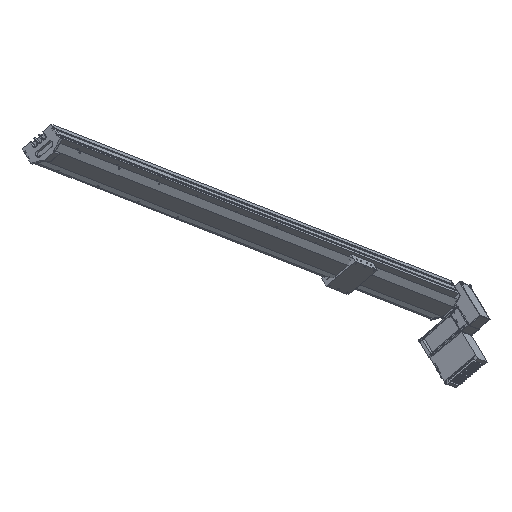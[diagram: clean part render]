
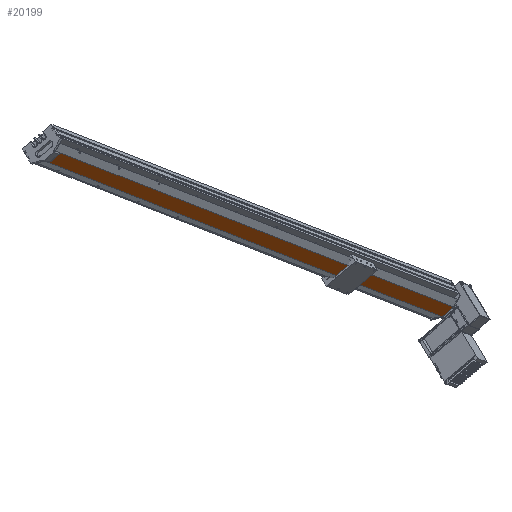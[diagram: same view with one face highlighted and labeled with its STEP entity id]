
A CAD part, top view. The second image highlights one B-rep face of the part: STEP entity #20199.
In plain terms, the highlighted planar face has unit normal (0.464, -0.763, 0.45) as drawn and (0, 1, 0) by its records, which use the part's own axes.
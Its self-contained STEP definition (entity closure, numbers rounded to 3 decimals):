
#12195 = CARTESIAN_POINT ( 'NONE',  ( 20., 61.75, 0. ) ) ;
#12216 = CARTESIAN_POINT ( 'NONE',  ( 20., 61.75, 5.114 ) ) ;
#12584 = DIRECTION ( 'NONE',  ( 0., 0., -1. ) ) ;
#12585 = VECTOR ( 'NONE', #12584, 1000. ) ;
#12586 = CARTESIAN_POINT ( 'NONE',  ( 20., 61.75, 2000. ) ) ;
#12613 = LINE ( 'NONE', #12586, #12585 ) ;
#15366 = CARTESIAN_POINT ( 'NONE',  ( 20., 61.75, 2000. ) ) ;
#15457 = FACE_OUTER_BOUND ( 'NONE', #20262, .T. ) ;
#15701 = VECTOR ( 'NONE', #15895, 1000. ) ;
#15702 = CARTESIAN_POINT ( 'NONE',  ( -20., 61.75, 2000. ) ) ;
#15705 = VECTOR ( 'NONE', #15976, 1000. ) ;
#15780 = LINE ( 'NONE', #15977, #15705 ) ;
#15783 = DIRECTION ( 'NONE',  ( 0., -1., 0. ) ) ;
#15816 = CARTESIAN_POINT ( 'NONE',  ( -20., 61.75, 2000. ) ) ;
#15818 = CARTESIAN_POINT ( 'NONE',  ( 20., 61.75, 2000. ) ) ;
#15819 = PLANE ( 'NONE',  #15889 ) ;
#15889 = AXIS2_PLACEMENT_3D ( 'NONE', #15818, #15783, #15920 ) ;
#15895 = DIRECTION ( 'NONE',  ( 0., 0., -1. ) ) ;
#15908 = DIRECTION ( 'NONE',  ( -1., 0., 0. ) ) ;
#15910 = VECTOR ( 'NONE', #15908, 1000. ) ;
#15912 = CARTESIAN_POINT ( 'NONE',  ( 20., 61.75, 0. ) ) ;
#15914 = LINE ( 'NONE', #15912, #15910 ) ;
#15920 = DIRECTION ( 'NONE',  ( 0., 0., -1. ) ) ;
#15921 = CARTESIAN_POINT ( 'NONE',  ( -20., 61.75, 0. ) ) ;
#15976 = DIRECTION ( 'NONE',  ( -1., 0., 0. ) ) ;
#15977 = CARTESIAN_POINT ( 'NONE',  ( 20., 61.75, 2000. ) ) ;
#16015 = LINE ( 'NONE', #15702, #15701 ) ;
#16026 = DIRECTION ( 'NONE',  ( 0., 0., -1. ) ) ;
#16027 = VECTOR ( 'NONE', #16026, 1000. ) ;
#16029 = CARTESIAN_POINT ( 'NONE',  ( 20., 61.75, 2000. ) ) ;
#16030 = LINE ( 'NONE', #16029, #16027 ) ;
#18586 = VERTEX_POINT ( 'NONE', #12195 ) ;
#18591 = VERTEX_POINT ( 'NONE', #12216 ) ;
#18932 = EDGE_CURVE ( 'NONE', #18591, #18586, #12613, .T. ) ;
#20195 = VERTEX_POINT ( 'NONE', #15366 ) ;
#20196 = ORIENTED_EDGE ( 'NONE', *, *, #20204, .F. ) ;
#20198 = ORIENTED_EDGE ( 'NONE', *, *, #20256, .T. ) ;
#20199 = ADVANCED_FACE ( 'NONE', ( #15457 ), #15819, .F. ) ;
#20200 = VERTEX_POINT ( 'NONE', #15921 ) ;
#20201 = EDGE_CURVE ( 'NONE', #20195, #20212, #15780, .T. ) ;
#20204 = EDGE_CURVE ( 'NONE', #20212, #20200, #16015, .T. ) ;
#20212 = VERTEX_POINT ( 'NONE', #15816 ) ;
#20226 = EDGE_CURVE ( 'NONE', #18586, #20200, #15914, .T. ) ;
#20227 = ORIENTED_EDGE ( 'NONE', *, *, #18932, .T. ) ;
#20255 = ORIENTED_EDGE ( 'NONE', *, *, #20201, .F. ) ;
#20256 = EDGE_CURVE ( 'NONE', #20195, #18591, #16030, .T. ) ;
#20262 = EDGE_LOOP ( 'NONE', ( #20263, #20196, #20255, #20198, #20227 ) ) ;
#20263 = ORIENTED_EDGE ( 'NONE', *, *, #20226, .T. ) ;
